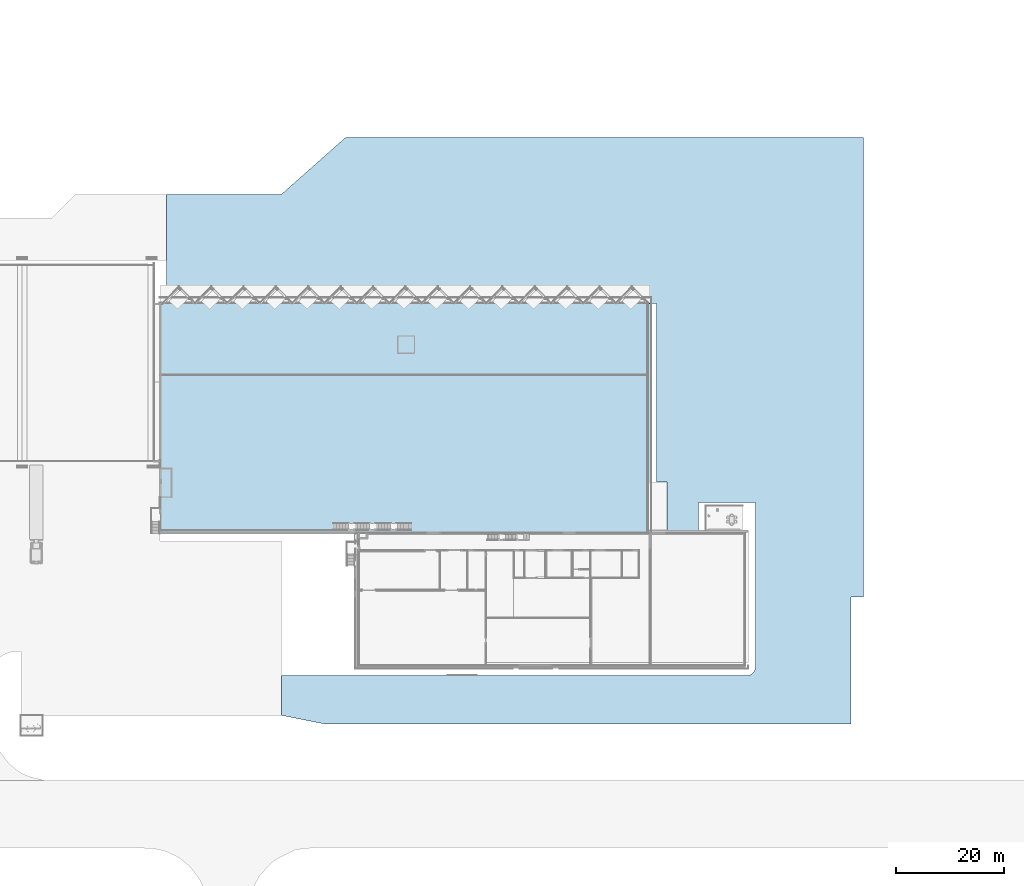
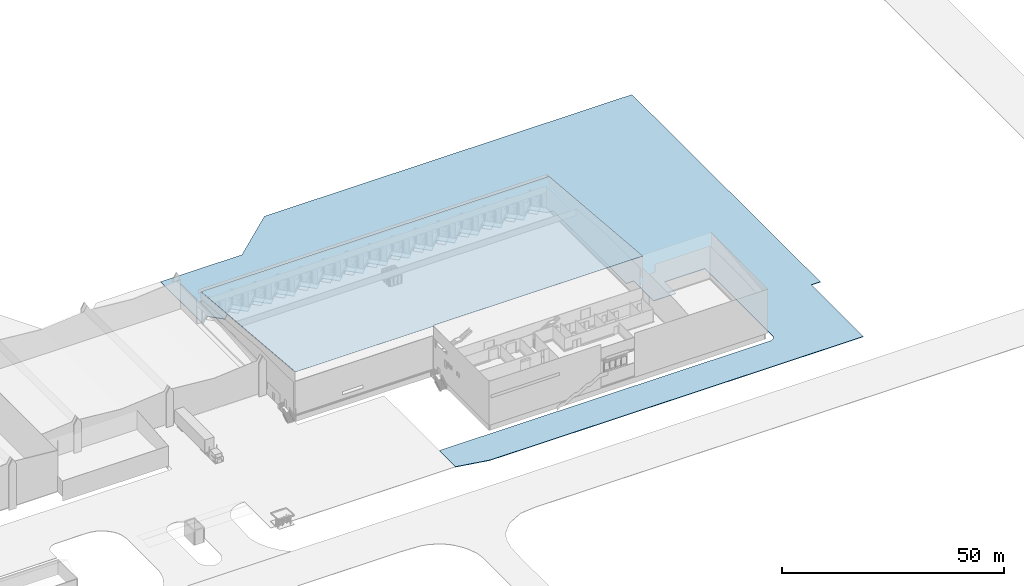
# One storey, part 15 of 64: 2 slabs, 1 element without a shape of its own.
"""IFC2X3 building model written with IfcOpenShell, lengths in millimetres."""

from ifc_helpers import new_model, entity, si_unit, converted_unit, derived_unit, direction, frame, frame_2d, origin, place, context, subcontext, project, spatial, polyline, circle_curve, parameter, trimmed, segment, composite_curve, outline, extrude, material, layer, layer_set, layer_usage, element, aggregate, save


model = new_model("IFC2X3")

# Units and contexts
model_context = context("Model", 3, precision=0.01, world=origin(), true_north=direction((4.05803320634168e-15, -1.0)))
body_context = subcontext(model_context, "Body", "Model", "MODEL_VIEW")
ifc_project = project(units=[si_unit("LENGTHUNIT", "METRE", prefix="MILLI"), si_unit("AREAUNIT", "SQUARE_METRE"), si_unit("VOLUMEUNIT", "CUBIC_METRE"), converted_unit("PLANEANGLEUNIT", "DEGREE", entity("IfcRatioMeasure", 0.0174532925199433), si_unit("PLANEANGLEUNIT", "RADIAN"), dimensions=[0, 0, 0, 0, 0, 0, 0]), si_unit("MASSUNIT", "GRAM", prefix="KILO"), derived_unit("MASSDENSITYUNIT", [(si_unit("MASSUNIT", "GRAM", prefix="KILO"), 1), (si_unit("LENGTHUNIT", "METRE"), -3)]), si_unit("TIMEUNIT", "SECOND"), si_unit("FREQUENCYUNIT", "HERTZ"), si_unit("THERMODYNAMICTEMPERATUREUNIT", "DEGREE_CELSIUS"), derived_unit("THERMALTRANSMITTANCEUNIT", [(si_unit("MASSUNIT", "GRAM", prefix="KILO"), 1), (si_unit("THERMODYNAMICTEMPERATUREUNIT", "KELVIN"), -1), (si_unit("TIMEUNIT", "SECOND"), -3)]), derived_unit("VOLUMETRICFLOWRATEUNIT", [(si_unit("LENGTHUNIT", "METRE"), 3), (si_unit("TIMEUNIT", "SECOND"), -1)]), si_unit("ELECTRICCURRENTUNIT", "AMPERE"), si_unit("ELECTRICVOLTAGEUNIT", "VOLT"), si_unit("POWERUNIT", "WATT"), si_unit("FORCEUNIT", "NEWTON", prefix="KILO"), si_unit("ILLUMINANCEUNIT", "LUX"), si_unit("LUMINOUSFLUXUNIT", "LUMEN"), si_unit("LUMINOUSINTENSITYUNIT", "CANDELA"), derived_unit("USERDEFINED", [(si_unit("MASSUNIT", "GRAM", prefix="KILO"), -1), (si_unit("LENGTHUNIT", "METRE"), -2), (si_unit("TIMEUNIT", "SECOND"), 3), (si_unit("LUMINOUSFLUXUNIT", "LUMEN"), 1)]), derived_unit("LINEARVELOCITYUNIT", [(si_unit("LENGTHUNIT", "METRE"), 1), (si_unit("TIMEUNIT", "SECOND"), -1)]), si_unit("PRESSUREUNIT", "PASCAL"), derived_unit("USERDEFINED", [(si_unit("LENGTHUNIT", "METRE"), -2), (si_unit("MASSUNIT", "GRAM", prefix="KILO"), 1), (si_unit("TIMEUNIT", "SECOND"), -2)])], contexts=[model_context])

# Site, building, storey
site_placement = place(None, frame((927466.849349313, 583801.882853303, 0.0), z_axis=(0.0, 0.0, 1.0), x_axis=(-1.0, 0.0, 0.0)))
site = spatial("IfcSite", under=ifc_project, at=site_placement, Name="Surface", CompositionType="ELEMENT")
building_placement = place(site_placement, origin())
building = spatial("IfcBuilding", under=site, at=building_placement, CompositionType="ELEMENT")
storey_placement = place(building_placement, frame((0.0, 0.0, 44170.0)))
storey = spatial("IfcBuildingStorey", under=building, at=storey_placement, Name="Ground FFL", CompositionType="ELEMENT", Elevation=44170.0)

# Slab
ifc_material_1 = material(Name="tar")
ifc_layer_1 = layer(ifc_material_1, 150.0)
ifc_layer_set_1 = layer_set([ifc_layer_1], Name="Floor:tar")
ifc_layer_usage = layer_usage(ifc_layer_set_1, "AXIS3", "POSITIVE", 0.0)
slab_1_placement = place(storey_placement, origin())
element("IfcSlab", 1, at=slab_1_placement, inside=storey, material=ifc_layer_usage, Name="Floor:tar", ObjectType="Floor:tar", PredefinedType="FLOOR", context=body_context, shape_type="SweptSolid", body=[
    extrude(outline(composite_curve([segment(polyline([(-43058.6566954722, -70970.331976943), (41985.2404791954, -70970.331976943)]), True, "CONTINUOUS"), segment(polyline([(41985.2404791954, -70970.331976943), (41985.2404791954, -68632.3319769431)]), True, "CONTINUOUS"), segment(polyline([(41985.2404791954, -68632.3319769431), (65454.6085564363, -68632.3319769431)]), True, "CONTINUOUS"), segment(polyline([(65454.6085564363, -68632.3319769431), (65454.6085564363, 28624.7068149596)]), True, "CONTINUOUS"), segment(polyline([(65454.6085564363, 28624.7068149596), (63840.3299759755, 36667.4851258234)]), True, "CONTINUOUS"), segment(polyline([(63840.3299759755, 36667.4851258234), (56454.6085564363, 36667.4851258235)]), True, "CONTINUOUS"), segment(polyline([(56454.6085564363, 36667.4851258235), (56454.6085564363, -49790.274602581)]), True, "CONTINUOUS"), segment(trimmed(circle_curve(frame_2d((54709.3399853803, -49186.5040938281), x_axis=(0.945046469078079, -0.326936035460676)), 1846.75423712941), [parameter(290.708741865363)], [parameter(0.0)], True, "PARAMETER"), False, "CONTINUOUS"), segment(polyline([(54761.7366569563, -51032.5148741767), (24436.6085564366, -51032.5148741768)]), True, "CONTINUOUS"), segment(polyline([(24436.6085564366, -51032.5148741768), (24436.6085564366, -40490.3828593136)]), True, "CONTINUOUS"), segment(polyline([(24436.6085564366, -40490.3828593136), (29636.608556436, -40490.3828593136)]), True, "CONTINUOUS"), segment(polyline([(29636.608556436, -40490.3828593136), (29636.608556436, -34677.7029527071)]), True, "CONTINUOUS"), segment(polyline([(29636.608556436, -34677.7029527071), (20663.5533405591, -34677.7029527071)]), True, "CONTINUOUS"), segment(polyline([(20663.5533405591, -34677.7029527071), (20663.5533405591, -32732.514874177)]), True, "CONTINUOUS"), segment(polyline([(20663.5533405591, -32732.514874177), (-12368.4095157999, -32732.514874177)]), True, "CONTINUOUS"), segment(polyline([(-12368.4095157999, -32732.514874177), (-12368.4095157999, -31275.7250260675)]), True, "CONTINUOUS"), segment(polyline([(-12368.4095157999, -31275.7250260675), (-15463.9189280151, -28134.5313914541)]), True, "CONTINUOUS"), segment(polyline([(-15463.9189280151, -28134.5313914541), (-12493.3603182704, -25163.6073409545)]), True, "CONTINUOUS"), segment(polyline([(-12493.3603182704, -25163.6073409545), (-15463.9189280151, -22149.2081107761)]), True, "CONTINUOUS"), segment(polyline([(-15463.9189280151, -22149.2081107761), (-12493.3603182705, -19178.2840602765)]), True, "CONTINUOUS"), segment(polyline([(-12493.3603182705, -19178.2840602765), (-15463.9189280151, -16163.884830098)]), True, "CONTINUOUS"), segment(polyline([(-15463.9189280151, -16163.884830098), (-12493.3603182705, -13192.9607795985)]), True, "CONTINUOUS"), segment(polyline([(-12493.3603182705, -13192.9607795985), (-15463.9189280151, -10178.56154942)]), True, "CONTINUOUS"), segment(polyline([(-15463.9189280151, -10178.56154942), (-12493.3603182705, -7207.63749892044)]), True, "CONTINUOUS"), segment(polyline([(-12493.3603182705, -7207.63749892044), (-15463.9189280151, -4193.23826874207)]), True, "CONTINUOUS"), segment(polyline([(-15463.9189280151, -4193.23826874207), (-12493.3603182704, -1222.31421824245)]), True, "CONTINUOUS"), segment(polyline([(-12493.3603182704, -1222.31421824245), (-15463.9189280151, 1792.08501193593)]), True, "CONTINUOUS"), segment(polyline([(-15463.9189280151, 1792.08501193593), (-12493.3603182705, 4763.00906243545)]), True, "CONTINUOUS"), segment(polyline([(-12493.3603182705, 4763.00906243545), (-15463.9189280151, 7777.40829261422)]), True, "CONTINUOUS"), segment(polyline([(-15463.9189280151, 7777.40829261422), (-12493.3603182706, 10748.3323431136)]), True, "CONTINUOUS"), segment(polyline([(-12493.3603182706, 10748.3323431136), (-15463.9189280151, 13762.7315732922)]), True, "CONTINUOUS"), segment(polyline([(-15463.9189280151, 13762.7315732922), (-12493.3603182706, 16733.6556237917)]), True, "CONTINUOUS"), segment(polyline([(-12493.3603182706, 16733.6556237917), (-15463.9189280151, 19748.0548539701)]), True, "CONTINUOUS"), segment(polyline([(-15463.9189280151, 19748.0548539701), (-12493.3603182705, 22718.9789044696)]), True, "CONTINUOUS"), segment(polyline([(-12493.3603182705, 22718.9789044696), (-15463.9189280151, 25733.3781346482)]), True, "CONTINUOUS"), segment(polyline([(-15463.9189280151, 25733.3781346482), (-12493.3603182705, 28704.3021851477)]), True, "CONTINUOUS"), segment(polyline([(-12493.3603182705, 28704.3021851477), (-15463.9189280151, 31718.7014153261)]), True, "CONTINUOUS"), segment(polyline([(-15463.9189280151, 31718.7014153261), (-12493.3603182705, 34689.6254658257)]), True, "CONTINUOUS"), segment(polyline([(-12493.3603182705, 34689.6254658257), (-15463.9189280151, 37704.0246960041)]), True, "CONTINUOUS"), segment(polyline([(-15463.9189280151, 37704.0246960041), (-12493.3603182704, 40674.9487465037)]), True, "CONTINUOUS"), segment(polyline([(-12493.3603182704, 40674.9487465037), (-15463.9189280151, 43689.3479766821)]), True, "CONTINUOUS"), segment(polyline([(-15463.9189280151, 43689.3479766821), (-12493.3603182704, 46660.2720271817)]), True, "CONTINUOUS"), segment(polyline([(-12493.3603182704, 46660.2720271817), (-15463.9189280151, 49674.6712573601)]), True, "CONTINUOUS"), segment(polyline([(-15463.9189280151, 49674.6712573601), (-12471.4378915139, 52667.5177348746)]), True, "CONTINUOUS"), segment(polyline([(-12471.4378915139, 52667.5177348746), (-15464.251757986, 55659.9661643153)]), True, "CONTINUOUS"), segment(polyline([(-15464.251757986, 55659.9661643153), (-13202.1595308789, 57922.3346375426)]), True, "CONTINUOUS"), segment(polyline([(-13202.1595308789, 57922.3346375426), (-32481.99599564, 57922.3346375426)]), True, "CONTINUOUS"), segment(polyline([(-32481.99599564, 57922.3346375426), (-32481.99599564, 36722.2913011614)]), True, "CONTINUOUS"), segment(polyline([(-32481.99599564, 36722.2913011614), (-43058.6566954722, 24774.1375933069)]), True, "CONTINUOUS"), segment(polyline([(-43058.6566954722, 24774.1375933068), (-43058.6566954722, -70970.331976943)]), True, "CONTINUOUS")], self_intersect=False)), frame((-103768.076905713, -18188.3308052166, -1360.0), z_axis=(0.0, 0.0, -1.0), x_axis=(0.0, 1.0, 0.0)), (0.0, 0.0, 1.0), 150.000000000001),
])

# Roof, slab
roof_placement = place(storey_placement, frame((-135438.59177989, -30547.6265410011, 8455.0409232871)))
roof = element("IfcRoof", 2, at=roof_placement, inside=storey, Name="Basic Roof:50", ObjectType="Basic Roof:50", ShapeType="NOTDEFINED")
ifc_material_2 = material(Name="Aluminum")
ifc_layer_2 = layer(ifc_material_2, 50.0)
ifc_layer_set_2 = layer_set([ifc_layer_2], Name="Basic Roof:50")
slab_2_placement = place(roof_placement, origin())
slab_2 = element("IfcSlab", 3, at=slab_2_placement, material=ifc_layer_set_2, Name="Basic Roof:50", ObjectType="Basic Roof:50", PredefinedType="ROOF", context=body_context, shape_type="SweptSolid", body=[
    extrude(outline(polyline([(9312.22527496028, 21417.0715094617), (9312.22527496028, 21077.7804043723), (-45344.7747250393, 21077.7804043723), (-45344.7747250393, -21417.0715094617), (45344.7747250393, -21417.0715094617), (45344.7747250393, 21417.0715094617), (9312.22527496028, 21417.0715094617)])), frame((45344.7747250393, 21335.5730863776, 1866.62077488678), z_axis=(0.0, -0.0871557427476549, 0.996194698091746), x_axis=(1.0, 0.0, 0.0)), (0.0, 0.0871557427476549, 0.996194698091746), 50.1909918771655),
])
aggregate(roof, [slab_2])

save(model, "model.ifc")
